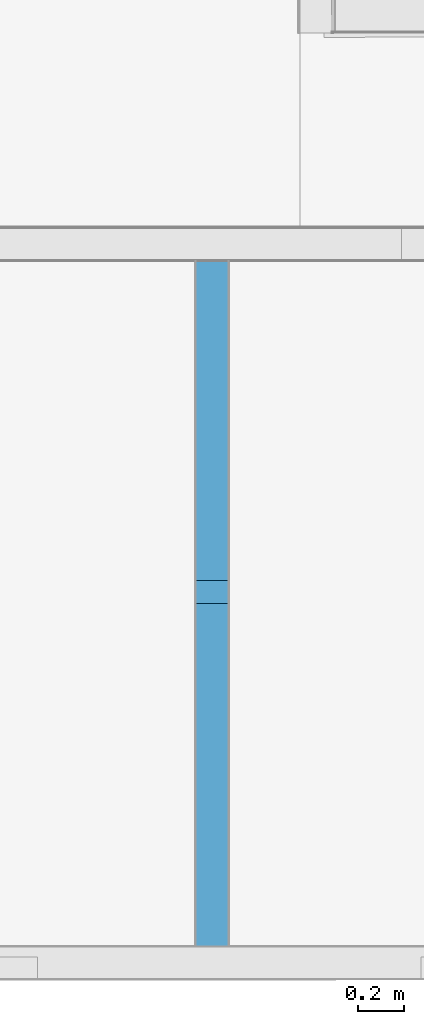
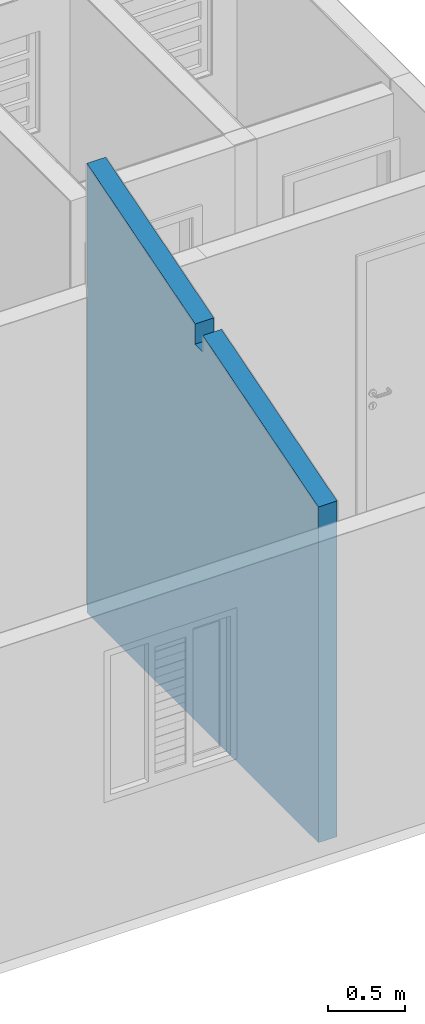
# One storey, part 5 of 11: 1 building element part, 1 element without a shape of its own.
"""IFC2X3 building model written with IfcOpenShell, lengths in millimetres."""

from ifc_helpers import new_model, entity, si_unit, converted_unit, derived_unit, money_unit, direction, frame, origin_with_axes, place, context, subcontext, project, spatial, polyline, outline, extrude, boolean, faceted_brep, material, type_object, element, aggregate, save


model = new_model("IFC2X3")

# Units and contexts
model_context = context("Model", 3, precision=0.01, world=origin_with_axes(), true_north=direction((0.0, 1.0)))
body_context = subcontext(model_context, "Body", "Model", "MODEL_VIEW")
ifc_project = project(units=[si_unit("LENGTHUNIT", "METRE", prefix="MILLI"), si_unit("AREAUNIT", "SQUARE_METRE"), si_unit("VOLUMEUNIT", "CUBIC_METRE"), converted_unit("PLANEANGLEUNIT", "DEGREE", entity("IfcPlaneAngleMeasure", 0.0174532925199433), si_unit("PLANEANGLEUNIT", "RADIAN"), dimensions=[0, 0, 0, 0, 0, 0, 0]), money_unit("USD"), converted_unit("TIMEUNIT", "Year", entity("IfcTimeMeasure", 31557600.0), si_unit("TIMEUNIT", "SECOND"), dimensions=[0, 0, 1, 0, 0, 0, 0]), si_unit("MASSUNIT", "GRAM", prefix="KILO"), si_unit("THERMODYNAMICTEMPERATUREUNIT", "DEGREE_CELSIUS"), si_unit("LUMINOUSINTENSITYUNIT", "LUMEN"), si_unit("ENERGYUNIT", "JOULE", prefix="MEGA"), derived_unit("THERMALCONDUCTANCEUNIT", [(si_unit("POWERUNIT", "WATT"), 1), (si_unit("LENGTHUNIT", "METRE"), -1), (si_unit("THERMODYNAMICTEMPERATUREUNIT", "KELVIN"), -1)]), derived_unit("SPECIFICHEATCAPACITYUNIT", [(si_unit("ENERGYUNIT", "JOULE"), 1), (si_unit("MASSUNIT", "GRAM", prefix="KILO"), -1), (si_unit("THERMODYNAMICTEMPERATUREUNIT", "KELVIN"), -1)]), derived_unit("MASSDENSITYUNIT", [(si_unit("MASSUNIT", "GRAM", prefix="KILO"), 1), (si_unit("VOLUMEUNIT", "CUBIC_METRE"), -1)])], contexts=[model_context])

# Site, building, storey
site_placement = place(None, origin_with_axes())
site = spatial("IfcSite", under=ifc_project, at=site_placement, Name="Local", CompositionType="ELEMENT")
building_placement = place(site_placement, origin_with_axes())
building = spatial("IfcBuilding", under=site, at=building_placement, Name="Construção", CompositionType="ELEMENT")
storey_placement = place(building_placement, origin_with_axes())
storey = spatial("IfcBuildingStorey", under=building, at=storey_placement, Name="Pavimento Térreo", CompositionType="ELEMENT", Elevation=0.0)

# Wall, building element part
wall_type = type_object("IfcWallType", Name="Alvenaria 140, Rebocada 2 Faces 150", PredefinedType="NOTDEFINED")
wall_placement = place(storey_placement, frame((5550.000000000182, 149.9999999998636, 0.0), z_axis=(0.0, 0.0, 1.0), x_axis=(0.0, 1.0, 0.0)))
wall = element("IfcWall", 1, at=wall_placement, inside=storey, type_object=wall_type, Name="Parede-20")
ifc_material = material(Name="Bloco de Concreto - Estrutural DEF")
building_element_part_placement = place(wall_placement, origin_with_axes())
building_element_part = element("IfcBuildingElementPart", 2, at=building_element_part_placement, material=ifc_material, Name="Bloco de Concreto - Estrutural DEF", context=body_context, shape_type="CSG", body=[
    boolean("DIFFERENCE", boolean("DIFFERENCE", boolean("DIFFERENCE", boolean("DIFFERENCE", boolean("DIFFERENCE", boolean("DIFFERENCE", extrude(outline(polyline([(0.0, 4.999999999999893), (3005.000000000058, 4.999999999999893), (3005.000000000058, 145.0000000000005), (0.0, 145.0000000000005), (0.0, 4.999999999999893)])), origin_with_axes(), (0.0, 0.0, 1.0), 5897.788795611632), faceted_brep([(3005.000000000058, 0.0, 2500.0), (3005.000000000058, 5.000000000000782, 2500.0), (3005.000000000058, 5.000000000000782, 2580.0), (3005.000000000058, 0.0, 2580.0), (2999.999999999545, 0.0, 2500.0), (2999.999999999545, 5.000000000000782, 2500.0), (2999.999999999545, 5.000000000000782, 2580.0), (2999.999999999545, 0.0, 2580.0)], [[[0, 1, 2, 3]], [[1, 0, 4, 5]], [[6, 2, 1, 5]], [[7, 3, 2, 6]], [[4, 0, 3, 7]], [[4, 7, 6, 5]]])), faceted_brep([(1600.000000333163, 0.0, 2980.451740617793), (1600.000000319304, 0.0, 3140.45174066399), (3005.000000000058, 0.0, 3561.951740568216), (3005.000000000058, 0.0, 5897.788795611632), (0.0, 0.0, 5897.788795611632), (0.0, 0.0, 2660.451740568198), (1500.000000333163, 0.0, 3110.451740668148), (1500.000000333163, 0.0, 2980.451740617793), (1600.000000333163, 5.000000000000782, 2980.451740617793), (1600.000000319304, 5.000000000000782, 3140.45174066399), (3005.000000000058, 5.000000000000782, 3561.951740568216), (3005.000000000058, 4.999999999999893, 5897.788795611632), (0.0, 4.999999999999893, 5897.788795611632), (0.0, 5.000000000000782, 2660.451740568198), (1500.000000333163, 5.000000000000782, 3110.451740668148), (1500.000000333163, 5.000000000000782, 2980.451740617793)], [[[0, 1, 2, 3, 4, 5, 6, 7]], [[1, 0, 8, 9]], [[10, 2, 1, 9]], [[2, 10, 11, 3]], [[12, 4, 3, 11]], [[13, 5, 4, 12]], [[6, 5, 13, 14]], [[7, 6, 14, 15]], [[0, 7, 15, 8]], [[14, 13, 12, 11, 10, 9, 8, 15]]])), faceted_brep([(3005.000000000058, 5.000000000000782, 2500.0), (3005.000000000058, 144.9999999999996, 2500.0), (3005.000000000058, 144.9999999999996, 2580.0), (3005.000000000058, 5.000000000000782, 2580.0), (2999.999999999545, 5.000000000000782, 2500.0), (2999.999999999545, 145.0000000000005, 2500.0), (2999.999999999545, 145.0000000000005, 2580.0), (2999.999999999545, 5.000000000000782, 2580.0)], [[[0, 1, 2, 3]], [[1, 0, 4, 5]], [[6, 2, 1, 5]], [[3, 2, 6, 7]], [[4, 0, 3, 7]], [[6, 5, 4, 7]]])), faceted_brep([(1600.000000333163, 5.000000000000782, 2980.451740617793), (1600.000000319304, 5.000000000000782, 3140.45174066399), (3005.000000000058, 5.000000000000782, 3561.951740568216), (3005.000000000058, 4.999999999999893, 5897.788795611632), (0.0, 4.999999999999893, 5897.788795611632), (0.0, 5.000000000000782, 2660.451740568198), (1500.000000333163, 5.000000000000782, 3110.451740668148), (1500.000000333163, 5.000000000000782, 2980.451740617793), (1600.000000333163, 145.0000000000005, 2980.451740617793), (1600.000000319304, 145.0000000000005, 3140.45174066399), (3005.000000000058, 144.9999999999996, 3561.951740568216), (3005.000000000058, 145.0000000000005, 5897.788795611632), (0.0, 145.0000000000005, 5897.788795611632), (0.0, 144.9999999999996, 2660.451740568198), (1500.000000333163, 145.0000000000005, 3110.451740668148), (1500.000000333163, 145.0000000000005, 2980.451740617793)], [[[0, 1, 2, 3, 4, 5, 6, 7]], [[1, 0, 8, 9]], [[10, 2, 1, 9]], [[2, 10, 11, 3]], [[12, 4, 3, 11]], [[13, 5, 4, 12]], [[6, 5, 13, 14]], [[14, 15, 7, 6]], [[15, 8, 0, 7]], [[14, 13, 12, 11, 10, 9, 8, 15]]])), faceted_brep([(3005.000000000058, 144.9999999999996, 2500.0), (3005.000000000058, 150.0000000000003, 2500.0), (3005.000000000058, 150.0000000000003, 2580.0), (3005.000000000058, 144.9999999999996, 2580.0), (2999.999999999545, 145.0000000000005, 2500.0), (2999.999999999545, 150.0000000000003, 2500.0), (2999.999999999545, 150.0000000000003, 2580.0), (2999.999999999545, 145.0000000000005, 2580.0)], [[[0, 1, 2, 3]], [[1, 0, 4, 5]], [[6, 2, 1, 5]], [[3, 2, 6, 7]], [[4, 0, 3, 7]], [[6, 5, 4, 7]]])), faceted_brep([(1600.000000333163, 145.0000000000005, 2980.451740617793), (1600.000000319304, 145.0000000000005, 3140.45174066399), (3005.000000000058, 144.9999999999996, 3561.951740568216), (3005.000000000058, 145.0000000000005, 5897.788795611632), (0.0, 145.0000000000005, 5897.788795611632), (0.0, 144.9999999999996, 2660.451740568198), (1500.000000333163, 145.0000000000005, 3110.451740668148), (1500.000000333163, 145.0000000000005, 2980.451740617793), (1600.000000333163, 150.0000000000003, 2980.451740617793), (1600.000000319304, 150.0000000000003, 3140.45174066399), (3005.000000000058, 150.0000000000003, 3561.951740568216), (3005.000000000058, 150.0000000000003, 5897.788795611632), (0.0, 150.0000000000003, 5897.788795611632), (0.0, 150.0000000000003, 2660.451740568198), (1500.000000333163, 150.0000000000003, 3110.451740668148), (1500.000000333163, 150.0000000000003, 2980.451740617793)], [[[0, 1, 2, 3, 4, 5, 6, 7]], [[8, 9, 1, 0]], [[10, 2, 1, 9]], [[2, 10, 11, 3]], [[12, 4, 3, 11]], [[13, 5, 4, 12]], [[6, 5, 13, 14]], [[14, 15, 7, 6]], [[15, 8, 0, 7]], [[14, 13, 12, 11, 10, 9, 8, 15]]])),
])
aggregate(wall, [building_element_part])

save(model, "model.ifc")
